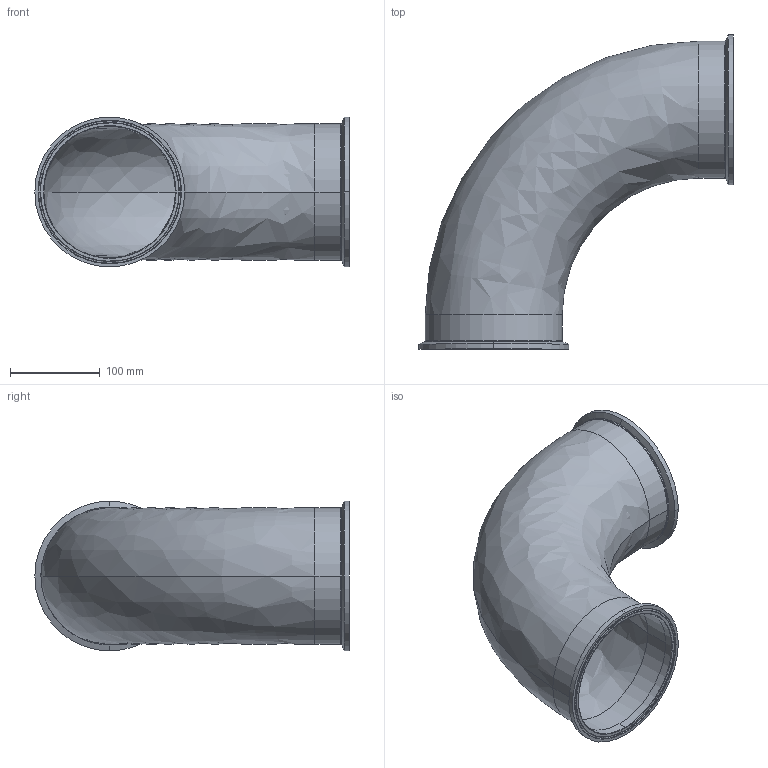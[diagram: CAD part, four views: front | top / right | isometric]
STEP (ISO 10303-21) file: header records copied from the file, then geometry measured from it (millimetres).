
FILE_DESCRIPTION (( 'STEP AP214' ), '1' );
FILE_NAME ('TEG2C6L6.0-...STEP', '2016-05-22T10:50:59', ( 'eran' ), ( '' ), 'SwSTEP 2.0', 'SolidWorks 2016', '' );
FILE_SCHEMA (( 'AUTOMOTIVE_DESIGN' ));
Length unit declared in the file: millimetre
Products named in the file (1): TEG2C6L6.0-..
Bounding box: 350.14 x 350.14 x 166.88 mm (x, y, z)
Volume: 615527.7 mm3; surface area: 430253 mm2
Topology: 3 solids, 3 shells, 64 faces, 158 edges, 102 vertices
Faces by surface type: bspline 24, cylinder 20, cone 12, plane 8
Entity records: 4214 total; most frequent: CARTESIAN_POINT 2641, DIRECTION 342, ORIENTED_EDGE 316, EDGE_CURVE 158, AXIS2_PLACEMENT_3D 155, CIRCLE 114, VERTEX_POINT 102, EDGE_LOOP 72
